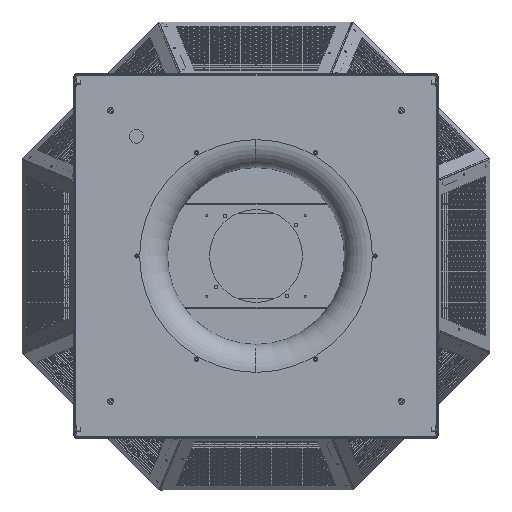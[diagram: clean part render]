
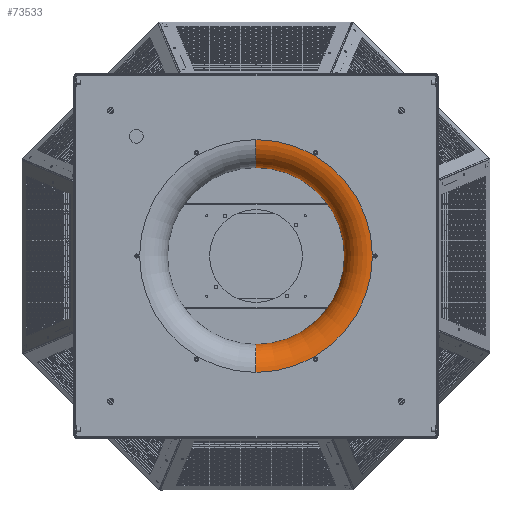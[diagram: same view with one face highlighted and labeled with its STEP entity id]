
A CAD part, front view. The second image highlights one B-rep face of the part: STEP entity #73533.
In plain terms, the highlighted toroidal (fillet/blend) face has major radius 214 mm and minor radius 51.5 mm.
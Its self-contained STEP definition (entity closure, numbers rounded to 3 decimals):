
#11179 = EDGE_LOOP ( 'NONE', ( #242868, #242864, #242877, #242861 ) ) ;
#28421 = AXIS2_PLACEMENT_3D ( 'NONE', #205716, #205718, #205721 ) ;
#28445 = AXIS2_PLACEMENT_3D ( 'NONE', #303977, #303980, #303983 ) ;
#28591 = AXIS2_PLACEMENT_3D ( 'NONE', #306730, #306733, #306737 ) ;
#29367 = AXIS2_PLACEMENT_3D ( 'NONE', #70479, #70482, #70484 ) ;
#45063 = CIRCLE ( 'NONE', #29367, 162.5 ) ;
#70479 = CARTESIAN_POINT ( 'NONE',  ( 0., -192.537, 0. ) ) ;
#70482 = DIRECTION ( 'NONE',  ( 0., -1., 0. ) ) ;
#70484 = DIRECTION ( 'NONE',  ( 0., 0., -1. ) ) ;
#73533 = ADVANCED_FACE ( 'NONE', ( #312110 ), #312087, .T. ) ;
#109021 = VERTEX_POINT ( 'NONE', #328941 ) ;
#109033 = VERTEX_POINT ( 'NONE', #328961 ) ;
#109080 = VERTEX_POINT ( 'NONE', #328983 ) ;
#109083 = VERTEX_POINT ( 'NONE', #328999 ) ;
#124064 = CARTESIAN_POINT ( 'NONE',  ( 0., -192.537, 0. ) ) ;
#124080 = DIRECTION ( 'NONE',  ( 0., -1., 0. ) ) ;
#124085 = DIRECTION ( 'NONE',  ( 0., 0., -1. ) ) ;
#126849 = EDGE_CURVE ( 'NONE', #109083, #109033, #45063, .T. ) ;
#202237 = CIRCLE ( 'NONE', #28421, 214. ) ;
#205716 = CARTESIAN_POINT ( 'NONE',  ( 0., -244.037, 0. ) ) ;
#205718 = DIRECTION ( 'NONE',  ( 0., -1., 0. ) ) ;
#205721 = DIRECTION ( 'NONE',  ( 0., 0., -1. ) ) ;
#242861 = ORIENTED_EDGE ( 'NONE', *, *, #329857, .F. ) ;
#242864 = ORIENTED_EDGE ( 'NONE', *, *, #328702, .T. ) ;
#242868 = ORIENTED_EDGE ( 'NONE', *, *, #328526, .T. ) ;
#242877 = ORIENTED_EDGE ( 'NONE', *, *, #126849, .F. ) ;
#277574 = AXIS2_PLACEMENT_3D ( 'NONE', #124064, #124080, #124085 ) ;
#292897 = CIRCLE ( 'NONE', #28445, 51.5 ) ;
#294668 = CIRCLE ( 'NONE', #28591, 51.5 ) ;
#303977 = CARTESIAN_POINT ( 'NONE',  ( 0., -192.537, 214. ) ) ;
#303980 = DIRECTION ( 'NONE',  ( 1., 0., 0. ) ) ;
#303983 = DIRECTION ( 'NONE',  ( 0., 0., -1. ) ) ;
#306730 = CARTESIAN_POINT ( 'NONE',  ( 0., -192.537, -214. ) ) ;
#306733 = DIRECTION ( 'NONE',  ( -1., 0., 0. ) ) ;
#306737 = DIRECTION ( 'NONE',  ( 0., 0., 1. ) ) ;
#312087 = TOROIDAL_SURFACE ( 'NONE', #277574, 214., 51.5 ) ;
#312110 = FACE_OUTER_BOUND ( 'NONE', #11179, .T. ) ;
#328526 = EDGE_CURVE ( 'NONE', #109021, #109080, #202237, .T. ) ;
#328702 = EDGE_CURVE ( 'NONE', #109080, #109033, #292897, .T. ) ;
#328941 = CARTESIAN_POINT ( 'NONE',  ( 0., -244.037, -214. ) ) ;
#328961 = CARTESIAN_POINT ( 'NONE',  ( 0., -192.537, 162.5 ) ) ;
#328983 = CARTESIAN_POINT ( 'NONE',  ( 0., -244.037, 214. ) ) ;
#328999 = CARTESIAN_POINT ( 'NONE',  ( 0., -192.537, -162.5 ) ) ;
#329857 = EDGE_CURVE ( 'NONE', #109021, #109083, #294668, .T. ) ;
